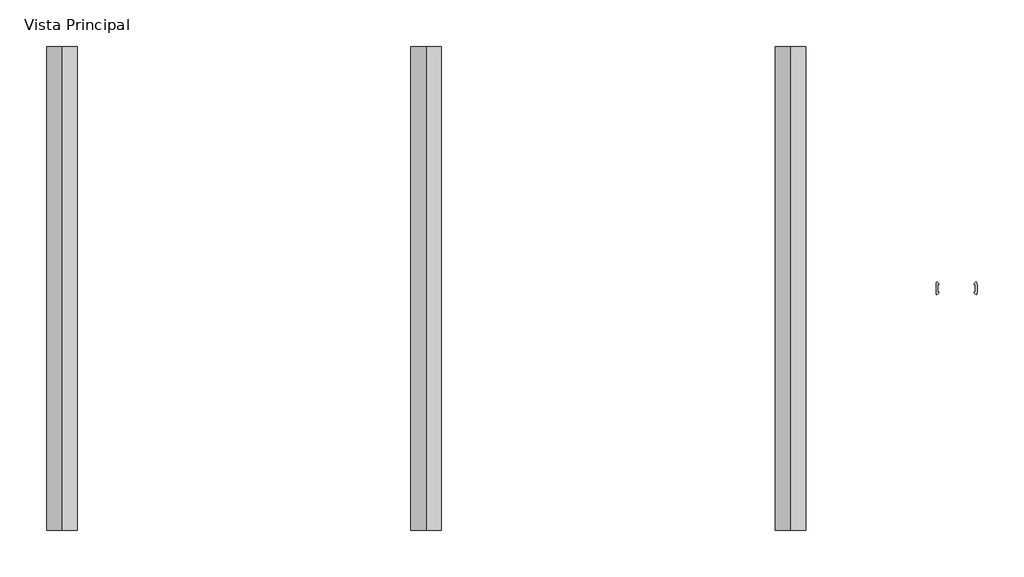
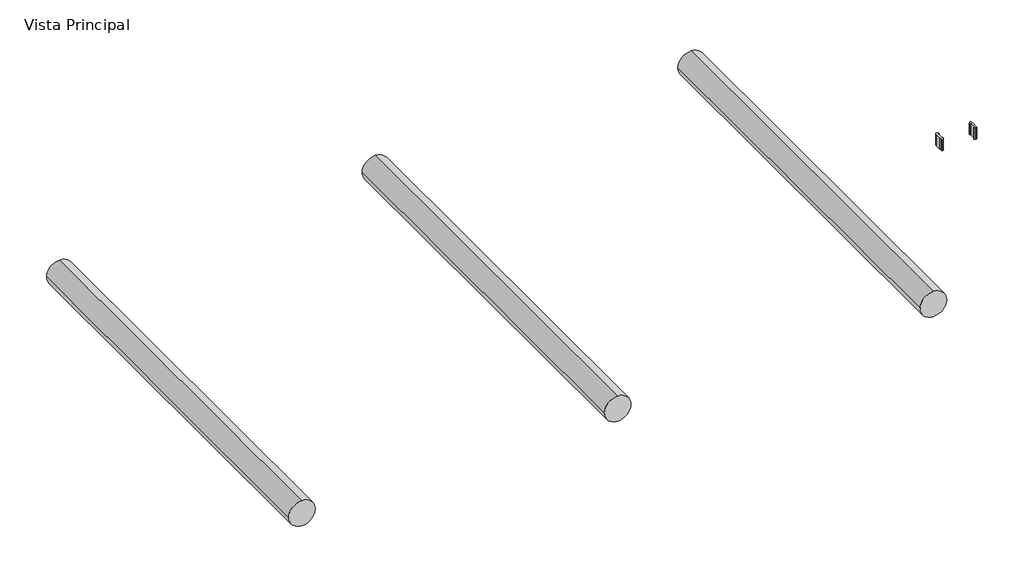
# One storey, incomplete: 3 pipe segments, 2 pipe fittings.
"""IFC4 building model written with IfcOpenShell, lengths in millimetres."""

from ifc_helpers import new_model, si_unit, point, frame, frame_2d, origin, place, context, project, spatial, circle_curve, trimmed, segment, composite_curve, outline, extrude, transform, mapped, element, save
from components import var_3c9d875d, var_f00af9f6

model = new_model("IFC4")

# Units and contexts
model_context = context("Model", 3, world=origin())
ifc_project = project(units=[si_unit("LENGTHUNIT", "METRE", prefix="MILLI")], contexts=[model_context])

# Site, building, storey
site = spatial("IfcSite", under=ifc_project)
building = spatial("IfcBuilding", under=site)
storey = spatial("IfcBuildingStorey", under=building, Name="Vista Principal", Elevation=0.0)

# Pipe fittings
placement = place(None, origin())
var_shape = var_3c9d875d(model_context)
element("IfcPipeFitting", 1, ObjectType="AmancoWavin_ConexõesdeTubos_PBAZNãoUsarTravadoColardetomada : Var.", at=placement, inside=storey, context=model_context, shape_type="MappedRepresentation", body=[
    mapped(var_shape, transform((2014.6854613, -273.6038177, 0.0), x_axis=(0.0, 0.0, 1.0), y_axis=(-0.9999999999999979, 6.55085616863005e-08, 0.0), z_axis=(-6.55085616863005e-08, -0.9999999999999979, 0.0))),
])
var_2_shape = var_f00af9f6(model_context)
element("IfcPipeFitting", 2, ObjectType="AmancoWavin_ConexõesdeTubos_PBAZNãoUsarTravadoColardetomada : Var.", at=placement, inside=storey, context=model_context, shape_type="MappedRepresentation", body=[
    mapped(var_2_shape, transform((2141.6254615, -273.6013479, 0.0), x_axis=(0.0, 0.0, 1.0), y_axis=(-0.9999999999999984, 5.702791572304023e-08, 0.0), z_axis=(-5.702791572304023e-08, -0.9999999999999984, 0.0))),
])

# Pipe segments
element("IfcPipeSegment", 3, ObjectType="Amanco Wavin PBA-CL12 DN 50 a 100 mm", at=placement, inside=storey, context=model_context, shape_type="SweptSolid", body=[
    extrude(outline(composite_curve([segment(trimmed(circle_curve(frame_2d((0.0, -1138.6801009)), 55.0), [point((0.0, -1193.6801009))], [point((-55.0, -1138.6801009))], False, "CARTESIAN"), True, "CONTINUOUS"), segment(trimmed(circle_curve(frame_2d((0.0, -1138.6801009)), 55.0), [point((-55.0, -1138.6801009))], [point((0.0, -1083.6801009))], False, "CARTESIAN"), True, "CONTINUOUS"), segment(trimmed(circle_curve(frame_2d((0.0, -1138.6801009)), 55.0), [point((0.0, -1083.6801009))], [point((55.0, -1138.6801009))], False, "CARTESIAN"), True, "CONTINUOUS"), segment(trimmed(circle_curve(frame_2d((0.0, -1138.6801009)), 55.0), [point((55.0, -1138.6801009))], [point((0.0, -1193.6801009))], False, "CARTESIAN"), True, "CONTINUOUS")], self_intersect=False)), frame((0.0, -1143.3794634, 0.0), z_axis=(0.0, 1.0, 0.0), x_axis=(0.0, 0.0, 1.0)), (0.0, 0.0, 1.0), 1740.0),
])
element("IfcPipeSegment", 4, ObjectType="Amanco Wavin PBA-CL15 DN 50 a 100 mm", at=placement, inside=storey, context=model_context, shape_type="SweptSolid", body=[
    extrude(outline(composite_curve([segment(trimmed(circle_curve(frame_2d((0.0, 171.0350567)), 55.0), [point((0.0, 116.0350567))], [point((-55.0, 171.0350567))], False, "CARTESIAN"), True, "CONTINUOUS"), segment(trimmed(circle_curve(frame_2d((0.0, 171.0350567)), 55.0), [point((-55.0, 171.0350567))], [point((0.0, 226.0350567))], False, "CARTESIAN"), True, "CONTINUOUS"), segment(trimmed(circle_curve(frame_2d((0.0, 171.0350567)), 55.0), [point((0.0, 226.0350567))], [point((55.0, 171.0350567))], False, "CARTESIAN"), True, "CONTINUOUS"), segment(trimmed(circle_curve(frame_2d((0.0, 171.0350567)), 55.0), [point((55.0, 171.0350567))], [point((0.0, 116.0350567))], False, "CARTESIAN"), True, "CONTINUOUS")], self_intersect=False)), frame((0.0, -1143.3794634, 0.0), z_axis=(0.0, 1.0, 0.0), x_axis=(0.0, 0.0, 1.0)), (0.0, 0.0, 1.0), 1740.0),
])
element("IfcPipeSegment", 5, ObjectType="Amanco Wavin PBA-CL20 DN 50 a 100 mm", at=placement, inside=storey, context=model_context, shape_type="SweptSolid", body=[
    extrude(outline(composite_curve([segment(trimmed(circle_curve(frame_2d((0.0, 1480.7502143)), 55.0), [point((0.0, 1425.7502143))], [point((-55.0, 1480.7502143))], False, "CARTESIAN"), True, "CONTINUOUS"), segment(trimmed(circle_curve(frame_2d((0.0, 1480.7502143)), 55.0), [point((-55.0, 1480.7502143))], [point((0.0, 1535.7502143))], False, "CARTESIAN"), True, "CONTINUOUS"), segment(trimmed(circle_curve(frame_2d((0.0, 1480.7502143)), 55.0), [point((0.0, 1535.7502143))], [point((55.0, 1480.7502143))], False, "CARTESIAN"), True, "CONTINUOUS"), segment(trimmed(circle_curve(frame_2d((0.0, 1480.7502143)), 55.0), [point((55.0, 1480.7502143))], [point((0.0, 1425.7502143))], False, "CARTESIAN"), True, "CONTINUOUS")], self_intersect=False)), frame((0.0, -1143.3794634, 0.0), z_axis=(0.0, 1.0, 0.0), x_axis=(0.0, 0.0, 1.0)), (0.0, 0.0, 1.0), 1740.0),
])

save(model, "model.ifc")
